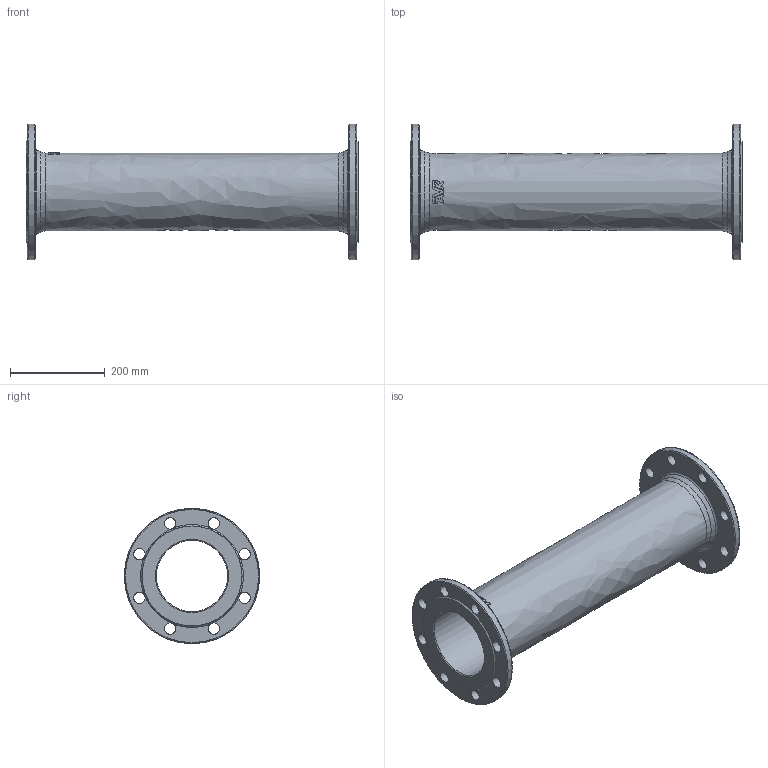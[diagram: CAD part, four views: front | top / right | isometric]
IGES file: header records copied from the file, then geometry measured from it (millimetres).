
Start section: SolidWorks IGES file using analytic representation for surfaces
Global section: file name: \\avksan2\techshare\PBM outline export from Enovia\O_712_5010_DN150_1X_REV01.igs; native system: SolidWorks 2019; preprocessor: SolidWorks 2019; author: pbm; date: 211203.104632; units: millimetre
Bounding box: 700 x 285 x 285 mm (x, y, z)
Surface area: 873237.5 mm2 (no closed solid volume)
Topology: 0 solids, 0 shells, 81 faces, 452 edges, 417 vertices
Faces by surface type: bspline 43, revolution 38
